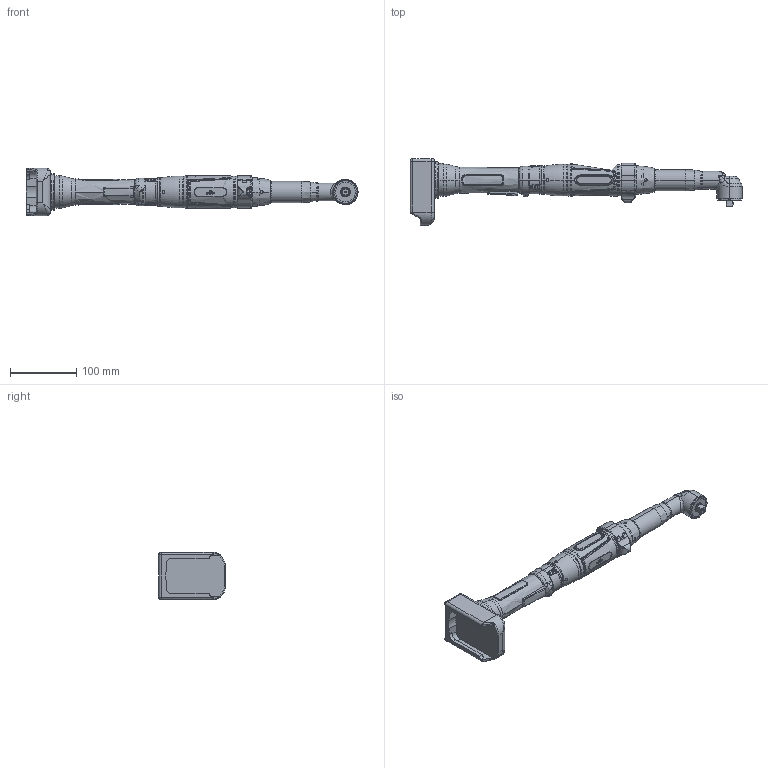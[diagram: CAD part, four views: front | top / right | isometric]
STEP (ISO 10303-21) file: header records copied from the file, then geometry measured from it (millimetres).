
FILE_DESCRIPTION (( 'STEP AP214' ), '1' );
FILE_NAME ('70122793_HSXBW1050WV38B.STEP', '2026-04-01T05:39:55', ( '' ), ( '' ), 'SwSTEP 2.0', 'SolidWorks 2020', '' );
FILE_SCHEMA (( 'AUTOMOTIVE_DESIGN' ));
Length unit declared in the file: millimetre
Products named in the file (1): 70122793_HSXBW1050WV38B
Bounding box: 502.9 x 101 x 72 mm (x, y, z)
Volume: 787076.9 mm3; surface area: 115020.4 mm2
Topology: 13 solids, 13 shells, 1398 faces, 3445 edges, 2106 vertices
Faces by surface type: plane 390, cylinder 382, bspline 367, torus 129, cone 104, sphere 26
Entity records: 81532 total; most frequent: CARTESIAN_POINT 35874, ORIENTED_EDGE 6808, DIRECTION 5588, EDGE_CURVE 3404, AXIS2_PLACEMENT_3D 2215, VERTEX_POINT 2100, EDGE_LOOP 1482, UNCERTAINTY_MEASURE_WITH_UNIT 1413
